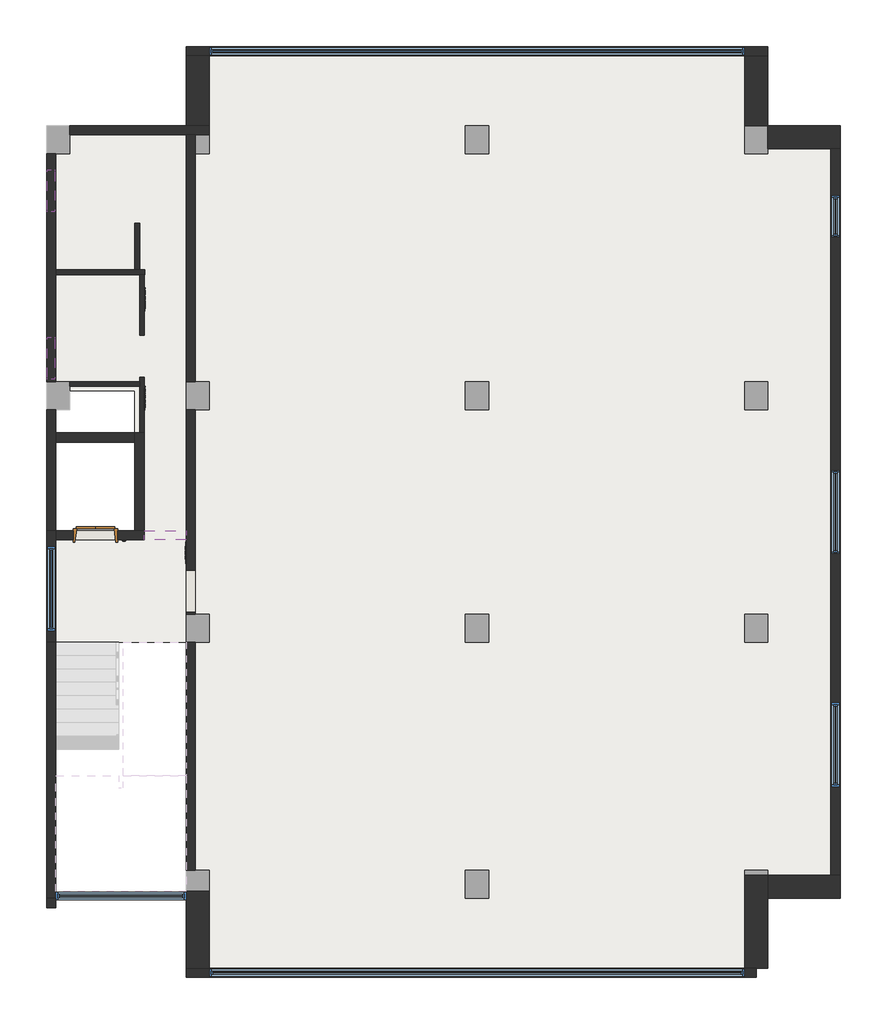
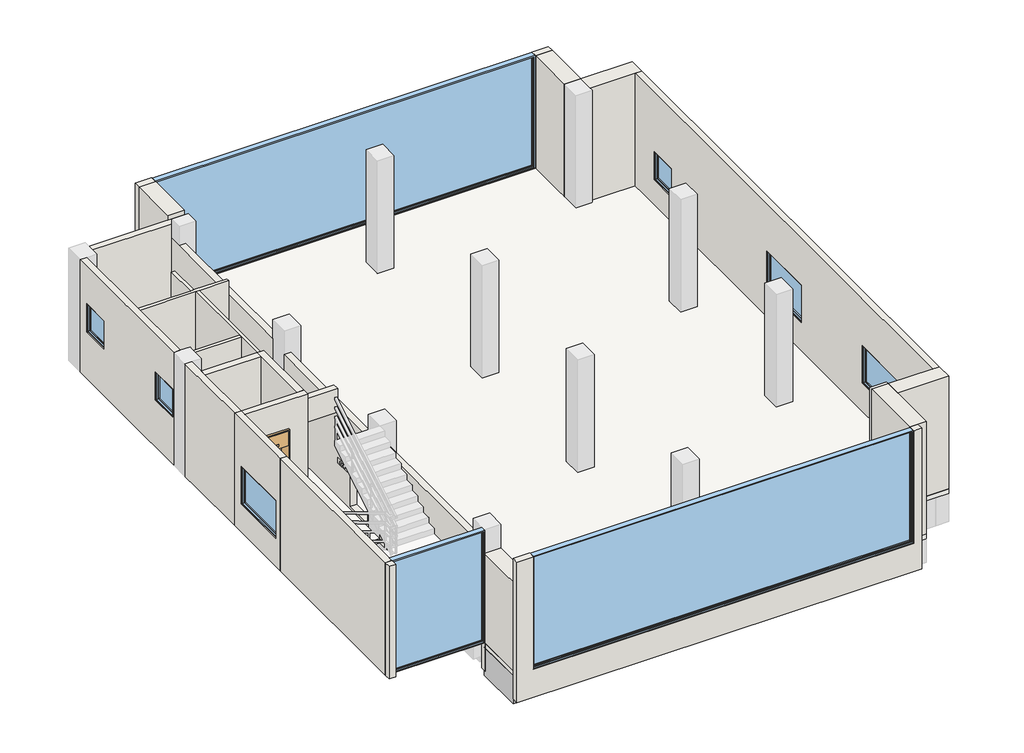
# One storey, part 1 of 3: 30 walls, 9 windows, 2 beams, 1 door, 1 slab.
"""IFC4 building model written with IfcOpenShell, lengths in millimetres."""

import ifcopenshell
import ifcopenshell.guid

model = None  # the IFC model being written
_history = None  # IfcOwnerHistory: only IFC2X3 demands one
_inside = {}  # id of a spatial element -> (the spatial element, [elements in it])
_under = {}  # id of a project, library or spatial element -> (it, [spatial elements below it])
_declared = {}  # id of a project -> (the project, [libraries it declares])
_typed = {}  # id of a type object -> (the type object, [elements of that type])
_made_of = {}  # id of a material, layer set ... -> (it, [elements and type objects made of it])


def new_model(schema):
    """Start an empty IFC model of exactly this schema.

    Asked for "IFC4X3", IfcOpenShell would pick the latest addendum, in which some entities
    have other attributes; the version numbers below select the first issue.
    IFC2X3 requires an IfcOwnerHistory on every rooted entity: one is made here for all.
    """
    global model, _history
    if schema == "IFC4X3":
        model = ifcopenshell.file(schema_version=(4, 3, 0, 0))
    else:
        model = ifcopenshell.file(schema=schema)
    _inside.clear()
    _under.clear()
    _declared.clear()
    _typed.clear()
    _made_of.clear()
    _history = None
    if model.schema == "IFC2X3":
        org = make("IfcOrganization", Name="unknown")
        user = make(
            "IfcPersonAndOrganization",
            ThePerson=make("IfcPerson", FamilyName="unknown"),
            TheOrganization=org,
        )
        app = make(
            "IfcApplication",
            ApplicationDeveloper=org,
            Version="unknown",
            ApplicationFullName="unknown",
            ApplicationIdentifier="unknown",
        )
        _history = make(
            "IfcOwnerHistory",
            OwningUser=user,
            OwningApplication=app,
            ChangeAction="ADDED",
            CreationDate=0,
        )
    return model


def make(cls, **values):
    """One entity of the class cls with the attributes given. An attribute that is None is left unset."""
    return model.create_entity(
        cls, **{name: value for name, value in values.items() if value is not None}
    )


def rooted(cls, **values):
    """An entity with a GlobalId (a new one), such as an element, a storey or a relation."""
    return make(cls, GlobalId=ifcopenshell.guid.new(), OwnerHistory=_history, **values)


def si_unit(unit_type, name, prefix=None):
    """IfcSIUnit, for example si_unit("LENGTHUNIT", "METRE", prefix="MILLI")."""
    return make("IfcSIUnit", UnitType=unit_type, Prefix=prefix, Name=name)


def assignment(units):
    """IfcUnitAssignment: the units of a project."""
    return None if units is None else make("IfcUnitAssignment", Units=units)


def point(xyz):
    """IfcCartesianPoint."""
    return None if xyz is None else make("IfcCartesianPoint", Coordinates=xyz)


def direction(xyz):
    """IfcDirection."""
    return None if xyz is None else make("IfcDirection", DirectionRatios=xyz)


def frame(location, z_axis=None, x_axis=None):
    """IfcAxis2Placement3D, a coordinate frame: its origin and axes. An axis left out is left unset."""
    return make(
        "IfcAxis2Placement3D",
        Location=point(location),
        Axis=direction(z_axis),
        RefDirection=direction(x_axis),
    )


def frame_2d(location, x_axis=None):
    """IfcAxis2Placement2D, a coordinate frame in the plane: its origin and x axis."""
    return make(
        "IfcAxis2Placement2D", Location=point(location), RefDirection=direction(x_axis)
    )


def origin():
    """The frame at (0, 0, 0) with its axes left unset."""
    return frame((0.0, 0.0, 0.0))


def origin_with_axes():
    """The frame at (0, 0, 0) with the z axis (0, 0, 1) and the x axis (1, 0, 0) written out."""
    return frame((0.0, 0.0, 0.0), z_axis=(0.0, 0.0, 1.0), x_axis=(1.0, 0.0, 0.0))


def place(relative_to, where):
    """IfcLocalPlacement: puts the frame where relative to a parent placement (None: the world)."""
    return make(
        "IfcLocalPlacement", PlacementRelTo=relative_to, RelativePlacement=where
    )


def context(
    kind, dimensions, precision=None, world=None, true_north=None, identifier=None
):
    """IfcGeometricRepresentationContext, for example the 3D "Model" context."""
    return make(
        "IfcGeometricRepresentationContext",
        ContextIdentifier=identifier,
        ContextType=kind,
        CoordinateSpaceDimension=dimensions,
        Precision=precision,
        WorldCoordinateSystem=world,
        TrueNorth=true_north,
    )


def project(units=None, contexts=None):
    """IfcProject with its units and contexts."""
    return rooted(
        "IfcProject",
        Name="project",
        RepresentationContexts=contexts,
        UnitsInContext=assignment(units),
    )


def spatial(cls, under=None, at=None, **own):
    """A site, building, storey or space (cls), placed at a placement, below another one or the project."""
    s = rooted(cls, ObjectPlacement=at, **own)
    if under is not None:
        _under.setdefault(under.id(), (under, []))[1].append(s)
    return s


def polyline(points):
    """IfcPolyline through the points."""
    return make("IfcPolyline", Points=[point(p) for p in points])


def circle_curve(where, radius):
    """IfcCircle in the frame where."""
    return make("IfcCircle", Position=where, Radius=radius)


def trimmed(basis, trim1, trim2, sense, master):
    """IfcTrimmedCurve: the piece of a basis curve between two trims."""
    return make(
        "IfcTrimmedCurve",
        BasisCurve=basis,
        Trim1=trim1,
        Trim2=trim2,
        SenseAgreement=sense,
        MasterRepresentation=master,
    )


def segment(curve, same_sense, transition):
    """IfcCompositeCurveSegment."""
    return make(
        "IfcCompositeCurveSegment",
        Transition=transition,
        SameSense=same_sense,
        ParentCurve=curve,
    )


def composite_curve(segments, self_intersect=None):
    """IfcCompositeCurve: segments joined end to end."""
    return make("IfcCompositeCurve", Segments=segments, SelfIntersect=self_intersect)


def outline(outer, holes=None, kind="AREA"):
    """IfcArbitraryClosedProfileDef: a profile drawn as a closed curve; with holes, ...WithVoids."""
    if holes is None:
        return make("IfcArbitraryClosedProfileDef", ProfileType=kind, OuterCurve=outer)
    return make(
        "IfcArbitraryProfileDefWithVoids",
        ProfileType=kind,
        OuterCurve=outer,
        InnerCurves=holes,
    )


def extrude(swept, where, along, depth):
    """IfcExtrudedAreaSolid: the profile swept, set in the frame where, extruded along a direction by depth."""
    return make(
        "IfcExtrudedAreaSolid",
        SweptArea=swept,
        Position=where,
        ExtrudedDirection=direction(along),
        Depth=depth,
    )


def faces_of(points, faces, orient=None, outer=None):
    """IfcFace entities. A face is a list of loops; a loop is a list of indices into points, from 0.

    orient and outer hold one flag for each loop. By default every Orientation is true, the
    first loop of a face is its IfcFaceOuterBound and the others are IfcFaceBound.
    """
    made = []
    for i, loops in enumerate(faces):
        bounds = []
        for j, loop in enumerate(loops):
            is_outer = j == 0 if outer is None else outer[i][j]
            bounds.append(
                make(
                    "IfcFaceOuterBound" if is_outer else "IfcFaceBound",
                    Bound=make("IfcPolyLoop", Polygon=[points[k] for k in loop]),
                    Orientation=True if orient is None else orient[i][j],
                )
            )
        made.append(make("IfcFace", Bounds=bounds))
    return made


def faceted_brep(points, faces, orient=None, outer=None, voids=None):
    """IfcFacetedBrep: a solid bounded by flat faces; with voids (closed shells), ...WithVoids."""
    shared = [point(p) for p in points]
    hull = make("IfcClosedShell", CfsFaces=faces_of(shared, faces, orient, outer))
    if voids is None:
        return make("IfcFacetedBrep", Outer=hull)
    return make(
        "IfcFacetedBrepWithVoids",
        Outer=hull,
        Voids=[
            make(cls, CfsFaces=faces_of(shared, fs, o, b)) for cls, fs, o, b in voids
        ],
    )


def shape(context_of_items, identifier, shape_type, items):
    """IfcShapeRepresentation: the items that make up one representation, for example the "Body"."""
    return make(
        "IfcShapeRepresentation",
        ContextOfItems=context_of_items,
        RepresentationIdentifier=identifier,
        RepresentationType=shape_type,
        Items=items,
    )


def source(mapping_origin, context_of_items, identifier, shape_type, items):
    """IfcRepresentationMap: a shape defined once, which mapped items show again and again."""
    return make(
        "IfcRepresentationMap",
        MappingOrigin=mapping_origin,
        MappedRepresentation=shape(context_of_items, identifier, shape_type, items),
    )


def transform(
    local_origin,
    x_axis=None,
    y_axis=None,
    z_axis=None,
    scale=None,
    scale2=None,
    scale3=None,
    uniform=True,
):
    """IfcCartesianTransformationOperator3D, or its non-uniform kind. x_axis, y_axis, z_axis: its Axis1, 2, 3."""
    if uniform:
        return make(
            "IfcCartesianTransformationOperator3D",
            Axis1=direction(x_axis),
            Axis2=direction(y_axis),
            LocalOrigin=point(local_origin),
            Scale=scale,
            Axis3=direction(z_axis),
        )
    return make(
        "IfcCartesianTransformationOperator3DnonUniform",
        Axis1=direction(x_axis),
        Axis2=direction(y_axis),
        LocalOrigin=point(local_origin),
        Scale=scale,
        Axis3=direction(z_axis),
        Scale2=scale2,
        Scale3=scale3,
    )


def mapped(mapping_source, mapping_target):
    """IfcMappedItem: shows the shape of a source again, moved by a transform."""
    return make(
        "IfcMappedItem", MappingSource=mapping_source, MappingTarget=mapping_target
    )


def made_of(thing, what):
    """Note that an element or type object is made of a material, layer set ...; save() writes the relation."""
    if what is not None:
        _made_of.setdefault(what.id(), (what, []))[1].append(thing)
    return thing


def element(
    cls,
    number,
    at=None,
    inside=None,
    cuts=None,
    type_object=None,
    material=None,
    context=None,
    identifier="Body",
    shape_type=None,
    held_by="IfcProductDefinitionShape",
    body=None,
    shapes=None,
    **own,
):
    """One element of the class cls, such as IfcWall. Its Tag is "e" and its number.

    at: its placement. inside: the storey or other place that contains it. cuts: it is an
    opening in that element (IfcRelVoidsElement). A single representation is given by context,
    identifier, shape_type and body (its items); several are given by shapes. held_by: the class
    of the entity that holds the representations. save() writes the other relations.
    """
    e = rooted(cls, Tag="e%d" % number, ObjectPlacement=at, **own)
    if body is not None:
        shapes = [shape(context, identifier, shape_type, body)]
    if shapes is not None:
        e.Representation = make(held_by, Representations=shapes)
    if inside is not None:
        _inside.setdefault(inside.id(), (inside, []))[1].append(e)
    if cuts is not None:
        rooted(
            "IfcRelVoidsElement", RelatingBuildingElement=cuts, RelatedOpeningElement=e
        )
    if type_object is not None:
        _typed.setdefault(type_object.id(), (type_object, []))[1].append(e)
    return made_of(e, material)


def aggregate(whole, parts):
    """IfcRelAggregates: a whole, such as a stair, and the parts it consists of."""
    return rooted("IfcRelAggregates", RelatingObject=whole, RelatedObjects=parts)


def save(model, path):
    """Write the relations noted so far, then the file.

    IfcRelAggregates (storeys below a building ...), IfcRelContainedInSpatialStructure (elements
    in a storey), IfcRelDefinesByType, IfcRelAssociatesMaterial and IfcRelDeclares: one each for
    every whole, place, type object, material and project.
    """
    for whole, parts in _under.values():
        aggregate(whole, parts)
    for where, things in _inside.values():
        rooted(
            "IfcRelContainedInSpatialStructure",
            RelatedElements=things,
            RelatingStructure=where,
        )
    for kind, things in _typed.values():
        rooted("IfcRelDefinesByType", RelatedObjects=things, RelatingType=kind)
    for what, things in _made_of.values():
        rooted("IfcRelAssociatesMaterial", RelatedObjects=things, RelatingMaterial=what)
    for by, libraries in _declared.values():
        rooted("IfcRelDeclares", RelatingContext=by, RelatedDefinitions=libraries)
    model.write(path)


def door_097e9757(model_context):
    return source(origin(), model_context, "Body", "SolidModel", [
        extrude(outline(polyline([(1060.9866664, -470.6066865), (1060.9866664, -508.6656154), (1028.0266672, -489.6361509), (1060.9866664, -470.6066865)])), frame((0.0, 120.0, 0.0), z_axis=(0.0, 1.0, 0.0), x_axis=(0.0, 0.0, 1.0)), (0.0, 0.0, 1.0), 6.0),
        extrude(outline(polyline([(1141.9733328, -489.6361509), (1109.0133336, -508.6656154), (1109.0133336, -470.6066865), (1141.9733328, -489.6361509)])), frame((0.0, 120.0, 0.0), z_axis=(0.0, 1.0, 0.0), x_axis=(0.0, 0.0, 1.0)), (0.0, 0.0, 1.0), 6.0),
        extrude(outline(composite_curve([segment(trimmed(circle_curve(frame_2d((1120.0, -489.6361509)), 25.0), [point((1120.0, -464.6361509))], [point((1120.0, -514.6361509))], False, "CARTESIAN"), True, "CONTINUOUS"), segment(trimmed(circle_curve(frame_2d((1120.0, -489.6361509)), 25.0), [point((1120.0, -514.6361509))], [point((1120.0, -464.6361509))], False, "CARTESIAN"), True, "CONTINUOUS")], self_intersect=False), holes=[polyline([(1109.0133336, -508.6656154), (1141.9733328, -489.6361509), (1109.0133336, -470.6066865), (1109.0133336, -508.6656154)])]), frame((0.0, 120.0, 0.0), z_axis=(0.0, 1.0, 0.0), x_axis=(0.0, 0.0, 1.0)), (0.0, 0.0, 1.0), 5.0),
        extrude(outline(composite_curve([segment(trimmed(circle_curve(frame_2d((1050.0, -489.6361509)), 25.0), [point((1050.0, -464.6361509))], [point((1050.0, -514.6361509))], False, "CARTESIAN"), True, "CONTINUOUS"), segment(trimmed(circle_curve(frame_2d((1050.0, -489.6361509)), 25.0), [point((1050.0, -514.6361509))], [point((1050.0, -464.6361509))], False, "CARTESIAN"), True, "CONTINUOUS")], self_intersect=False), holes=[polyline([(1060.9866664, -508.6656154), (1060.9866664, -470.6066865), (1028.0266672, -489.6361509), (1060.9866664, -508.6656154)])]), frame((0.0, 120.0, 0.0), z_axis=(0.0, 1.0, 0.0), x_axis=(0.0, 0.0, 1.0)), (0.0, 0.0, 1.0), 5.0),
        extrude(outline(polyline([(-450.0, 110.0), (-530.0, 110.0), (-530.0, 120.0), (-450.0, 120.0), (-450.0, 110.0)])), frame((0.0, 0.0, 1000.0), z_axis=(0.0, 0.0, 1.0), x_axis=(1.0, 0.0, 0.0)), (0.0, 0.0, 1.0), 170.0),
        faceted_brep([(-315.0, 155.0, 0.0), (-275.0, -134.999444, 0.0), (-350.0, -134.999444, 0.0), (-350.0, 155.0, 0.0), (-315.0, 155.0, 2565.0), (-275.0, -134.999444, 2525.0), (525.0, -134.999444, 2525.0), (525.0, -134.999444, 0.0), (600.0, -134.999444, 0.0), (600.0, -134.999444, 2600.0), (-350.0, -134.999444, 2600.0), (-350.0, 155.0, 2600.0), (600.0, 155.0, 2600.0), (600.0, 155.0, 0.0), (565.0, 155.0, 0.0), (565.0, 155.0, 2565.0)], [[[0, 1, 2, 3]], [[1, 0, 4, 5]], [[2, 1, 5, 6, 7, 8, 9, 10]], [[3, 2, 10, 11]], [[0, 3, 11, 12, 13, 14, 15, 4]], [[5, 4, 15, 6]], [[11, 10, 9, 12]], [[14, 13, 8, 7]], [[6, 15, 14, 7]], [[12, 9, 8, 13]]]),
        extrude(outline(polyline([(122.500166, -144.701786), (122.500166, -179.701786), (-289.999834, -179.701786), (-289.999834, -144.701786), (122.500166, -144.701786)])), origin_with_axes(), (0.0, 0.0, 1.0), 2135.0),
        extrude(outline(polyline([(127.500166, -144.701786), (539.999834, -144.701786), (539.999834, -179.701786), (127.500166, -179.701786), (127.500166, -144.701786)])), origin_with_axes(), (0.0, 0.0, 1.0), 2135.0),
        faceted_brep([(-315.0, 155.0, 2565.0), (565.0, 155.0, 2565.0), (565.0, 155.0, 2100.0), (-315.0, 155.0, 2100.0), (-275.0, -134.999444, 2525.0), (-275.0, -134.999444, 2100.0), (525.0, -134.999444, 2100.0), (525.0, -134.999444, 2525.0)], [[[0, 1, 2, 3]], [[4, 5, 6, 7]], [[4, 7, 1, 0]], [[7, 6, 2, 1]], [[6, 5, 3, 2]], [[5, 4, 0, 3]]]),
        extrude(outline(polyline([(-5.0, 160.0), (255.0, 160.0), (255.0, 155.0), (-5.0, 155.0), (-5.0, 160.0)])), frame((0.0, 0.0, 2171.6666667), z_axis=(0.0, 0.0, 1.0), x_axis=(1.0, 0.0, 0.0)), (0.0, 0.0, 1.0), 70.0),
    ])


def window_16c43cb3(model_context):
    return source(origin(), model_context, "Body", "SweptSolid", [
        extrude(outline(polyline([(380.0, 6.0), (380.0, -6.0), (-380.0, -6.0), (-380.0, 6.0), (380.0, 6.0)])), frame((0.0, 0.0, 870.0), z_axis=(0.0, 0.0, 1.0), x_axis=(1.0, 0.0, 0.0)), (0.0, 0.0, 1.0), 760.0),
        extrude(outline(polyline([(1660.0, -410.0), (840.0, -410.0), (840.0, 410.0), (1660.0, 410.0), (1660.0, -410.0)]), holes=[polyline([(1630.0, 380.0), (870.0, 380.0), (870.0, -380.0), (1630.0, -380.0), (1630.0, 380.0)])]), frame((0.0, -35.0, 0.0), z_axis=(0.0, 1.0, 0.0), x_axis=(0.0, 0.0, 1.0)), (0.0, 0.0, 1.0), 70.0),
        extrude(outline(polyline([(1700.0, 450.0), (1700.0, -450.0), (800.0, -450.0), (800.0, 450.0), (1700.0, 450.0)]), holes=[polyline([(1660.0, 410.0), (840.0, 410.0), (840.0, -410.0), (1660.0, -410.0), (1660.0, 410.0)])]), frame((0.0, -78.6430223, 0.0), z_axis=(0.0, 1.0, 0.0), x_axis=(0.0, 0.0, 1.0)), (0.0, 0.0, 1.0), 157.2860446),
    ])


def window_f2f41d25(model_context):
    return source(origin(), model_context, "Body", "SweptSolid", [
        extrude(outline(polyline([(380.0, -6.0), (-380.0, -6.0), (-380.0, 6.0), (380.0, 6.0), (380.0, -6.0)])), frame((0.0, 0.0, 870.0), z_axis=(0.0, 0.0, 1.0), x_axis=(1.0, 0.0, 0.0)), (0.0, 0.0, 1.0), 760.0),
        extrude(outline(polyline([(1660.0, 410.0), (1660.0, -410.0), (840.0, -410.0), (840.0, 410.0), (1660.0, 410.0)]), holes=[polyline([(1630.0, -380.0), (1630.0, 380.0), (870.0, 380.0), (870.0, -380.0), (1630.0, -380.0)])]), frame((0.0, -35.0, 0.0), z_axis=(0.0, 1.0, 0.0), x_axis=(0.0, 0.0, 1.0)), (0.0, 0.0, 1.0), 70.0),
        extrude(outline(polyline([(1700.0, 450.0), (1700.0, -450.0), (800.0, -450.0), (800.0, 450.0), (1700.0, 450.0)]), holes=[polyline([(1660.0, 410.0), (840.0, 410.0), (840.0, -410.0), (1660.0, -410.0), (1660.0, 410.0)])]), frame((0.0, -78.6430223, 0.0), z_axis=(0.0, 1.0, 0.0), x_axis=(0.0, 0.0, 1.0)), (0.0, 0.0, 1.0), 157.2860446),
    ])


def window_07c90ac9(model_context):
    return source(origin(), model_context, "Body", "SweptSolid", [
        extrude(outline(polyline([(830.0, 6.0), (830.0, -6.0), (-830.0, -6.0), (-830.0, 6.0), (830.0, 6.0)])), frame((0.0, 0.0, 870.0), z_axis=(0.0, 0.0, 1.0), x_axis=(1.0, 0.0, 0.0)), (0.0, 0.0, 1.0), 1060.0),
        extrude(outline(polyline([(1960.0, -860.0), (840.0, -860.0), (840.0, 860.0), (1960.0, 860.0), (1960.0, -860.0)]), holes=[polyline([(1930.0, 830.0), (870.0, 830.0), (870.0, -830.0), (1930.0, -830.0), (1930.0, 830.0)])]), frame((0.0, -35.0, 0.0), z_axis=(0.0, 1.0, 0.0), x_axis=(0.0, 0.0, 1.0)), (0.0, 0.0, 1.0), 70.0),
        extrude(outline(polyline([(2000.0, 900.0), (2000.0, -900.0), (800.0, -900.0), (800.0, 900.0), (2000.0, 900.0)]), holes=[polyline([(1960.0, 860.0), (840.0, 860.0), (840.0, -860.0), (1960.0, -860.0), (1960.0, 860.0)])]), frame((0.0, -78.6430223, 0.0), z_axis=(0.0, 1.0, 0.0), x_axis=(0.0, 0.0, 1.0)), (0.0, 0.0, 1.0), 157.2860446),
    ])


def window_8a8d6591(model_context):
    return source(origin(), model_context, "Body", "SweptSolid", [
        extrude(outline(polyline([(5680.0, 6.0), (5680.0, -6.0), (-5680.0, -6.0), (-5680.0, 6.0), (5680.0, 6.0)])), frame((0.0, 0.0, 870.0), z_axis=(0.0, 0.0, 1.0), x_axis=(1.0, 0.0, 0.0)), (0.0, 0.0, 1.0), 3460.0),
        extrude(outline(polyline([(4360.0, -5710.0), (840.0, -5710.0), (840.0, 5710.0), (4360.0, 5710.0), (4360.0, -5710.0)]), holes=[polyline([(4330.0, 5680.0), (870.0, 5680.0), (870.0, -5680.0), (4330.0, -5680.0), (4330.0, 5680.0)])]), frame((0.0, -35.0, 0.0), z_axis=(0.0, 1.0, 0.0), x_axis=(0.0, 0.0, 1.0)), (0.0, 0.0, 1.0), 70.0),
        extrude(outline(polyline([(4400.0, 5750.0), (4400.0, -5750.0), (800.0, -5750.0), (800.0, 5750.0), (4400.0, 5750.0)]), holes=[polyline([(4360.0, 5710.0), (840.0, 5710.0), (840.0, -5710.0), (4360.0, -5710.0), (4360.0, 5710.0)])]), frame((0.0, -78.6430223, 0.0), z_axis=(0.0, 1.0, 0.0), x_axis=(0.0, 0.0, 1.0)), (0.0, 0.0, 1.0), 157.2860446),
    ])


def window_3f7671e2(model_context):
    return source(origin(), model_context, "Body", "SweptSolid", [
        extrude(outline(polyline([(1330.0, 6.0), (1330.0, -6.0), (-1330.0, -6.0), (-1330.0, 6.0), (1330.0, 6.0)])), frame((0.0, 0.0, 870.0), z_axis=(0.0, 0.0, 1.0), x_axis=(1.0, 0.0, 0.0)), (0.0, 0.0, 1.0), 3460.0),
        extrude(outline(polyline([(4360.0, -1360.0), (840.0, -1360.0), (840.0, 1360.0), (4360.0, 1360.0), (4360.0, -1360.0)]), holes=[polyline([(4330.0, 1330.0), (870.0, 1330.0), (870.0, -1330.0), (4330.0, -1330.0), (4330.0, 1330.0)])]), frame((0.0, -35.0, 0.0), z_axis=(0.0, 1.0, 0.0), x_axis=(0.0, 0.0, 1.0)), (0.0, 0.0, 1.0), 70.0),
        extrude(outline(polyline([(4400.0, 1400.0), (4400.0, -1400.0), (800.0, -1400.0), (800.0, 1400.0), (4400.0, 1400.0)]), holes=[polyline([(4360.0, 1360.0), (840.0, 1360.0), (840.0, -1360.0), (4360.0, -1360.0), (4360.0, 1360.0)])]), frame((0.0, -78.6430223, 0.0), z_axis=(0.0, 1.0, 0.0), x_axis=(0.0, 0.0, 1.0)), (0.0, 0.0, 1.0), 157.2860446),
    ])


model = new_model("IFC4")

# Units and contexts
model_context = context("Model", 3, world=origin())
ifc_project = project(units=[si_unit("LENGTHUNIT", "METRE", prefix="MILLI")], contexts=[model_context])

# Site, building, storey
site = spatial("IfcSite", under=ifc_project)
building = spatial("IfcBuilding", under=site)
storey = spatial("IfcBuildingStorey", under=building, Name="2층", Elevation=3900.0)

# Beams
placement = place(None, origin())
element("IfcBeam", 1, ObjectType="BM100-구조 보 : BM100-구조 보 400x900", at=placement, inside=storey, context=model_context, shape_type="Brep", body=[
    faceted_brep([(2750.0, -1800.0, 3750.0), (3150.0, -1800.0, 3750.0), (3150.0, -1400.0, 3750.0), (3150.0, -300.0, 3750.0), (2750.0, -300.0, 3750.0), (3150.0, -1800.0, 2850.0), (3150.0, -1400.0, 2850.0), (3150.0, -300.0, 2850.0), (2750.0, -1800.0, 2850.0), (2750.0, -300.0, 2850.0)], [[[0, 1, 2, 3, 4]], [[1, 5, 6, 7, 3, 2]], [[5, 8, 9, 7, 6]], [[8, 0, 4, 9]], [[1, 0, 8, 5]], [[4, 3, 7, 9]]]),
])
element("IfcBeam", 2, ObjectType="BM100-구조 보 : BM100-구조 보 400x900", at=placement, inside=storey, context=model_context, shape_type="Brep", body=[
    faceted_brep([(9250.0, -1800.0, 3750.0), (8850.0, -1400.0, 3750.0), (3150.0, -1400.0, 3750.0), (3150.0, -1800.0, 3750.0), (9050.0, -1800.0, 3750.0), (9250.0, -1800.0, 2850.0), (3150.0, -1800.0, 2850.0), (8850.0, -1400.0, 2850.0), (3150.0, -1400.0, 2850.0)], [[[0, 1, 2, 3, 4]], [[5, 0, 4, 3, 6]], [[7, 5, 6, 8]], [[1, 7, 8, 2]], [[3, 2, 8, 6]], [[1, 0, 5, 7]]]),
])

# Door
door_shape = door_097e9757(model_context)
element("IfcDoor", 3, ObjectType="XX111-승객용 엘리베이터 (다용도, 800KG) 상판 출입구800 : 엘리베이터 800", at=placement, inside=storey, context=model_context, shape_type="MappedRepresentation", body=[
    mapped(door_shape, transform((925.0, 7500.0, 4000.0), x_axis=(-1.0, 0.0, 0.0), y_axis=(0.0, -1.0, 0.0), z_axis=(0.0, 0.0, 1.0))),
])

# Slab
element("IfcSlab", 4, ObjectType="SL100-구조 바닥 150", at=placement, inside=storey, context=model_context, shape_type="Brep", body=[
    faceted_brep([(-50.0, 5200.0, 3750.0), (-50.0, 7400.0, 3750.0), (1650.0, 7400.0, 3750.0), (1650.0, 7600.0, 3750.0), (1650.0, 10600.0, 3750.0), (250.0, 10600.0, 3750.0), (250.0, 10800.0, 3750.0), (-50.0, 10800.0, 3750.0), (-50.0, 15700.0, 3750.0), (250.0, 15700.0, 3750.0), (250.0, 16100.0, 3750.0), (2750.0, 16100.0, 3750.0), (2750.0, 15700.0, 3750.0), (3150.0, 15700.0, 3750.0), (3250.0, 15700.0, 3750.0), (3250.0, 15900.0, 3750.0), (3250.0, 16300.0, 3750.0), (3150.0, 16300.0, 3750.0), (2750.0, 16300.0, 3750.0), (2750.0, 17800.0, 3750.0), (3150.0, 17800.0, 3750.0), (9250.0, 17800.0, 3750.0), (15250.0, 17800.0, 3750.0), (15250.0, 17400.0, 3750.0), (15250.0, 16300.0, 3750.0), (14850.0, 16300.0, 3750.0), (14750.0, 16300.0, 3750.0), (14750.0, 15900.0, 3750.0), (14750.0, 15700.0, 3750.0), (14850.0, 15700.0, 3750.0), (15250.0, 15700.0, 3750.0), (15250.0, 15900.0, 3750.0), (16800.0, 16300.0, 3750.0), (16800.0, 15900.0, 3750.0), (16800.0, 10700.0, 3750.0), (16800.0, 5700.0, 3750.0), (16800.0, -300.0, 3750.0), (16400.0, -300.0, 3750.0), (15250.0, -300.0, 3750.0), (15250.0, 100.0, 3750.0), (15250.0, 294.5, 3750.0), (14750.0, 294.5, 3750.0), (14750.0, 100.0, 3750.0), (14750.0, -300.0, 3750.0), (14750.0, -305.5, 3750.0), (14849.5, -305.5, 3750.0), (15249.5, -305.5, 3750.0), (15250.0, -305.5, 3750.0), (15250.0, -1800.0, 3750.0), (15249.5, -1800.0, 3750.0), (14849.5, -1800.0, 3750.0), (14802.9411221, -1800.0, 3750.0), (14802.9411221, -1400.0, 3750.0), (9250.0, -1400.0, 3750.0), (9050.0, -1400.0, 3750.0), (9050.0, -1800.0, 3750.0), (3150.0, -1800.0, 3750.0), (2750.0, -1800.0, 3750.0), (2750.0, -300.0, 3750.0), (3150.0, -300.0, 3750.0), (3250.0, -300.0, 3750.0), (3250.0, 100.0, 3750.0), (3250.0, 300.0, 3750.0), (3150.0, 300.0, 3750.0), (2750.0, 300.0, 3750.0), (2750.0, 5200.0, 3750.0), (3150.0, 5200.0, 3750.0), (3250.0, 5200.0, 3750.0), (3250.0, 5300.0, 3750.0), (3250.0, 5700.0, 3750.0), (3250.0, 5800.0, 3750.0), (3150.0, 5800.0, 3750.0), (2750.0, 5800.0, 3750.0), (2750.0, 10800.0, 3750.0), (2750.0, 10200.0, 3750.0), (3150.0, 10200.0, 3750.0), (3250.0, 10200.0, 3750.0), (3250.0, 10300.0, 3750.0), (3250.0, 10700.0, 3750.0), (3250.0, 10800.0, 3750.0), (3150.0, 10800.0, 3750.0), (14750.0, 10800.0, 3750.0), (14750.0, 10700.0, 3750.0), (14750.0, 10300.0, 3750.0), (14750.0, 10200.0, 3750.0), (14850.0, 10200.0, 3750.0), (15250.0, 10200.0, 3750.0), (15250.0, 10300.0, 3750.0), (15250.0, 10700.0, 3750.0), (15250.0, 10800.0, 3750.0), (14850.0, 10800.0, 3750.0), (14750.0, 5800.0, 3750.0), (14750.0, 5700.0, 3750.0), (14750.0, 5300.0, 3750.0), (14750.0, 5200.0, 3750.0), (14850.0, 5200.0, 3750.0), (15250.0, 5200.0, 3750.0), (15250.0, 5300.0, 3750.0), (15250.0, 5700.0, 3750.0), (15250.0, 5800.0, 3750.0), (14850.0, 5800.0, 3750.0), (8750.0, 300.0, 3750.0), (8750.0, 100.0, 3750.0), (8750.0, -300.0, 3750.0), (8850.0, -300.0, 3750.0), (9250.0, -300.0, 3750.0), (9250.0, 100.0, 3750.0), (9250.0, 300.0, 3750.0), (8850.0, 300.0, 3750.0), (8750.0, 10800.0, 3750.0), (8750.0, 10700.0, 3750.0), (8750.0, 10300.0, 3750.0), (8750.0, 10200.0, 3750.0), (8850.0, 10200.0, 3750.0), (9250.0, 10200.0, 3750.0), (9250.0, 10300.0, 3750.0), (9250.0, 10700.0, 3750.0), (9250.0, 10800.0, 3750.0), (8850.0, 10800.0, 3750.0), (8750.0, 5800.0, 3750.0), (8750.0, 5700.0, 3750.0), (8750.0, 5300.0, 3750.0), (8750.0, 5200.0, 3750.0), (8850.0, 5200.0, 3750.0), (9250.0, 5200.0, 3750.0), (9250.0, 5300.0, 3750.0), (9250.0, 5700.0, 3750.0), (9250.0, 5800.0, 3750.0), (8850.0, 5800.0, 3750.0), (-50.0, 7400.0, 3900.0), (-50.0, 5200.0, 3900.0), (2750.0, 5200.0, 3900.0), (2750.0, 5800.0, 3900.0), (3250.0, 5800.0, 3900.0), (3250.0, 5200.0, 3900.0), (2750.0, 300.0, 3900.0), (3250.0, 300.0, 3900.0), (3250.0, -300.0, 3900.0), (2750.0, -300.0, 3900.0), (2750.0, -1800.0, 3900.0), (15250.0, -1800.0, 3900.0), (15250.0, -305.5, 3900.0), (14750.0, -305.5, 3900.0), (14750.0, 294.5, 3900.0), (15250.0, 294.5, 3900.0), (15250.0, -300.0, 3900.0), (16800.0, -300.0, 3900.0), (16800.0, 16300.0, 3900.0), (15250.0, 16300.0, 3900.0), (15250.0, 15700.0, 3900.0), (14750.0, 15700.0, 3900.0), (14750.0, 16300.0, 3900.0), (15250.0, 17800.0, 3900.0), (2750.0, 17800.0, 3900.0), (2750.0, 16300.0, 3900.0), (2950.0, 16300.0, 3900.0), (3250.0, 16300.0, 3900.0), (3250.0, 15700.0, 3900.0), (2750.0, 15700.0, 3900.0), (2750.0, 16100.0, 3900.0), (250.0, 16100.0, 3900.0), (250.0, 15700.0, 3900.0), (-50.0, 15700.0, 3900.0), (-50.0, 10800.0, 3900.0), (250.0, 10800.0, 3900.0), (250.0, 10600.0, 3900.0), (1650.0, 10600.0, 3900.0), (1650.0, 7600.0, 3900.0), (1650.0, 7400.0, 3900.0), (2750.0, 10200.0, 3900.0), (2750.0, 10800.0, 3900.0), (3250.0, 10800.0, 3900.0), (3250.0, 10200.0, 3900.0), (8750.0, 5200.0, 3900.0), (8750.0, 5800.0, 3900.0), (9250.0, 5800.0, 3900.0), (9250.0, 5200.0, 3900.0), (14750.0, 10200.0, 3900.0), (14750.0, 10800.0, 3900.0), (15250.0, 10800.0, 3900.0), (15250.0, 10200.0, 3900.0), (8750.0, 10200.0, 3900.0), (8750.0, 10800.0, 3900.0), (9250.0, 10800.0, 3900.0), (9250.0, 10200.0, 3900.0), (14750.0, 5200.0, 3900.0), (14750.0, 5800.0, 3900.0), (15250.0, 5800.0, 3900.0), (15250.0, 5200.0, 3900.0), (8750.0, -300.0, 3900.0), (8750.0, 300.0, 3900.0), (9250.0, 300.0, 3900.0), (9250.0, -300.0, 3900.0), (9050.0, -1800.0, 3752.459218), (14799.4035473, -1800.0, 3893.8495831), (14799.4035473, -1400.0, 3893.8495831), (9050.0, -1400.0, 3752.459218)], [[[0, 1, 2, 3, 4, 5, 6, 7, 8, 9, 10, 11, 12, 13, 14, 15, 16, 17, 18, 19, 20, 21, 22, 23, 24, 25, 26, 27, 28, 29, 30, 31, 24, 32, 33, 34, 35, 36, 37, 38, 39, 40, 41, 42, 43, 44, 45, 46, 47, 48, 49, 50, 51, 52, 53, 54, 55, 56, 57, 58, 59, 60, 61, 62, 63, 64, 65, 66, 67, 68, 69, 70, 71, 72, 65], [73, 74, 75, 76, 77, 78, 79, 80], [81, 82, 83, 84, 85, 86, 87, 88, 89, 90], [91, 92, 93, 94, 95, 96, 97, 98, 99, 100], [101, 102, 103, 104, 105, 106, 107, 108], [109, 110, 111, 112, 113, 114, 115, 116, 117, 118], [119, 120, 121, 122, 123, 124, 125, 126, 127, 128]], [[129, 130, 131, 132, 133, 134, 131, 135, 136, 137, 138, 139, 140, 141, 142, 143, 144, 145, 146, 147, 148, 149, 150, 151, 148, 152, 153, 154, 155, 156, 157, 158, 159, 160, 161, 162, 163, 164, 165, 166, 167, 168], [169, 170, 171, 172], [173, 174, 175, 176], [177, 178, 179, 180], [181, 182, 183, 184], [185, 186, 187, 188], [189, 190, 191, 192]], [[1, 0, 130, 129]], [[11, 10, 160, 159]], [[58, 57, 139, 138]], [[0, 65, 131, 130]], [[153, 19, 18, 154]], [[22, 21, 20, 19, 153, 152]], [[36, 35, 34, 33, 32, 147, 146]], [[140, 139, 57, 56, 55, 193, 194, 51, 50, 49, 48]], [[38, 37, 36, 146, 145]], [[140, 48, 47, 141]], [[24, 23, 22, 152, 148]], [[32, 24, 148, 147]], [[2, 1, 129, 168]], [[5, 4, 166, 165]], [[8, 7, 163, 162]], [[64, 63, 62, 136, 135]], [[65, 64, 135, 131]], [[142, 44, 43, 42, 41, 143]], [[40, 144, 143, 41]], [[144, 40, 39, 38, 145]], [[44, 142, 141, 47, 46, 45]], [[101, 190, 189, 103, 102]], [[190, 101, 108, 107, 191]], [[191, 107, 106, 105, 192]], [[192, 105, 104, 103, 189]], [[72, 132, 131, 65]], [[70, 133, 132, 72, 71]], [[133, 70, 69, 68, 67, 134]], [[134, 67, 66, 65, 131]], [[73, 170, 169, 74]], [[170, 73, 80, 79, 171]], [[171, 79, 78, 77, 76, 172]], [[172, 76, 75, 74, 169]], [[6, 164, 163, 7]], [[161, 9, 8, 162]], [[158, 12, 11, 159]], [[16, 156, 155, 154, 18, 17]], [[156, 16, 15, 14, 157]], [[12, 158, 157, 14, 13]], [[26, 151, 150, 28, 27]], [[151, 26, 25, 24, 148]], [[30, 149, 148, 24, 31]], [[149, 30, 29, 28, 150]], [[81, 178, 177, 84, 83, 82]], [[178, 81, 90, 89, 179]], [[179, 89, 88, 87, 86, 180]], [[180, 86, 85, 84, 177]], [[109, 182, 181, 112, 111, 110]], [[182, 109, 118, 117, 183]], [[183, 117, 116, 115, 114, 184]], [[184, 114, 113, 112, 181]], [[91, 186, 185, 94, 93, 92]], [[186, 91, 100, 99, 187]], [[187, 99, 98, 97, 96, 188]], [[188, 96, 95, 94, 185]], [[119, 174, 173, 122, 121, 120]], [[174, 119, 128, 127, 175]], [[175, 127, 126, 125, 124, 176]], [[176, 124, 123, 122, 173]], [[60, 59, 58, 138, 137]], [[62, 61, 60, 137, 136]], [[4, 3, 2, 168, 167, 166]], [[164, 6, 5, 165]], [[9, 161, 160, 10]], [[195, 194, 193, 196]], [[195, 196, 54, 53, 52]], [[194, 195, 52, 51]], [[196, 193, 55, 54]]]),
])

# Walls
element("IfcWall", 5, ObjectType="WA100-구조 벽 200", at=placement, inside=storey, context=model_context, shape_type="Brep", body=[
    faceted_brep([(-50.0, -300.0, 3900.0), (-50.0, -100.0, 3900.0), (-50.0, 5200.0, 3900.0), (-50.0, 5200.0, 7500.0), (-50.0, -300.0, 7500.0), (-250.0, -300.0, 3900.0), (-250.0, -300.0, 7500.0), (-250.0, 5200.0, 7500.0), (-250.0, 5200.0, 3900.0)], [[[0, 1, 2, 3, 4]], [[5, 6, 7, 8]], [[2, 1, 0, 5, 8]], [[3, 2, 8, 7]], [[4, 3, 7, 6]], [[0, 4, 6, 5]]]),
])
element("IfcWall", 6, ObjectType="WA100-구조 벽 200", at=placement, inside=storey, context=model_context, shape_type="Brep", body=[
    faceted_brep([(-50.0, 7400.0, 3900.0), (1650.0, 7400.0, 3900.0), (1850.0, 7400.0, 3900.0), (1850.0, 7400.0, 6600.0), (1850.0, 7400.0, 7350.0), (1850.0, 7400.0, 7500.0), (-50.0, 7400.0, 7500.0), (-50.0, 7400.0, 7350.0), (1275.0, 7400.0, 6600.0), (1275.0, 7400.0, 4000.0), (325.0, 7400.0, 4000.0), (325.0, 7400.0, 6600.0), (1850.0, 7600.0, 3900.0), (1650.0, 7600.0, 3900.0), (-50.0, 7600.0, 3900.0), (-50.0, 7600.0, 7500.0), (1650.0, 7600.0, 7500.0), (1850.0, 7600.0, 7500.0), (1850.0, 7600.0, 7350.0), (1850.0, 7600.0, 6600.0), (1275.0, 7600.0, 4000.0), (1275.0, 7600.0, 6600.0), (325.0, 7600.0, 6600.0), (325.0, 7600.0, 4000.0)], [[[0, 1, 2, 3, 4, 5, 6, 7], [8, 9, 10, 11]], [[12, 13, 14, 15, 16, 17, 18, 19], [20, 21, 22, 23]], [[2, 1, 0, 14, 13, 12]], [[6, 5, 17, 16, 15]], [[6, 15, 14, 0, 7]], [[8, 21, 20, 9]], [[9, 20, 23, 10]], [[22, 11, 10, 23]], [[21, 8, 11, 22]], [[2, 12, 19, 18, 17, 5, 4, 3]]]),
])
element("IfcWall", 7, ObjectType="WA700-수장 벽 100", at=placement, inside=storey, context=model_context, shape_type="SweptSolid", body=[
    extrude(outline(polyline([(1750.0, 10700.0), (250.0, 10700.0), (250.0, 10800.0), (1750.0, 10800.0), (1750.0, 10700.0)])), frame((0.0, 0.0, 3900.0), z_axis=(0.0, 0.0, 1.0), x_axis=(1.0, 0.0, 0.0)), (0.0, 0.0, 1.0), 3450.0),
])
element("IfcWall", 8, ObjectType="WA100-구조 벽 200", at=placement, inside=storey, context=model_context, shape_type="Brep", body=[
    faceted_brep([(1850.0, 7600.0, 7500.0), (1850.0, 7600.0, 3900.0), (1850.0, 9700.0, 3900.0), (1850.0, 9700.0, 7500.0), (1650.0, 7600.0, 3900.0), (1650.0, 7600.0, 7500.0), (1650.0, 9500.0, 7500.0), (1650.0, 9700.0, 7500.0), (1650.0, 9700.0, 3900.0), (1650.0, 9500.0, 3900.0)], [[[0, 1, 2, 3]], [[4, 5, 6, 7, 8, 9]], [[2, 1, 4, 9, 8]], [[0, 3, 7, 6, 5]], [[2, 8, 7, 3]], [[0, 5, 4, 1]]]),
])
element("IfcWall", 9, ObjectType="WA100-구조 벽 200", at=placement, inside=storey, context=model_context, shape_type="Brep", body=[
    faceted_brep([(-50.0, 9500.0, 3900.0), (1650.0, 9500.0, 3900.0), (1650.0, 9500.0, 7500.0), (-50.0, 9500.0, 7500.0), (-50.0, 9700.0, 3900.0), (-50.0, 9700.0, 7500.0), (1650.0, 9700.0, 7500.0), (1650.0, 9700.0, 3900.0), (-50.0, 9600.0, 3900.0), (1650.0, 9600.0, 3900.0)], [[[0, 1, 2, 3]], [[4, 5, 6, 7]], [[1, 0, 8, 4, 7, 9]], [[3, 2, 6, 5]], [[0, 3, 5, 4, 8]], [[1, 9, 7, 6, 2]]]),
])
element("IfcWall", 10, ObjectType="WA700-수장 벽 100", at=placement, inside=storey, context=model_context, shape_type="Brep", body=[
    faceted_brep([(1750.0, 9700.0, 3900.0), (1750.0, 9700.0, 7350.0), (1750.0, 10700.0, 7350.0), (1750.0, 10800.0, 7350.0), (1750.0, 13100.0, 7350.0), (1750.0, 13100.0, 3900.0), (1750.0, 11795.0, 3900.0), (1750.0, 11795.0, 5700.0), (1750.0, 10895.0, 5700.0), (1750.0, 10895.0, 3900.0), (1750.0, 10800.0, 3900.0), (1750.0, 10700.0, 3900.0), (1850.0, 13100.0, 7350.0), (1850.0, 9700.0, 7350.0), (1850.0, 9700.0, 3900.0), (1850.0, 10895.0, 3900.0), (1850.0, 10895.0, 5700.0), (1850.0, 11795.0, 5700.0), (1850.0, 11795.0, 3900.0), (1850.0, 13100.0, 3900.0)], [[[0, 1, 2, 3, 4, 5, 6, 7, 8, 9, 10, 11]], [[12, 13, 14, 15, 16, 17, 18, 19]], [[14, 0, 11, 10, 9, 15]], [[5, 19, 18, 6]], [[1, 0, 14, 13]], [[5, 4, 12, 19]], [[13, 12, 4, 3, 2, 1]], [[8, 16, 15, 9]], [[16, 8, 7, 17]], [[17, 7, 6, 18]]]),
])
element("IfcWall", 11, ObjectType="WA700-수장 벽 100", at=placement, inside=storey, context=model_context, shape_type="Brep", body=[
    faceted_brep([(-50.0, 13100.0, 7350.0), (-50.0, 13100.0, 3900.0), (1750.0, 13100.0, 3900.0), (1850.0, 13100.0, 3900.0), (1855.0, 13100.0, 3900.0), (1855.0, 13100.0, 5700.0), (2750.0, 13100.0, 5700.0), (2750.0, 13100.0, 7350.0), (1850.0, 13100.0, 7350.0), (1750.0, 13100.0, 7350.0), (-50.0, 13200.0, 3900.0), (-50.0, 13200.0, 7350.0), (1650.0, 13200.0, 7350.0), (1750.0, 13200.0, 7350.0), (2750.0, 13200.0, 7350.0), (2750.0, 13200.0, 5700.0), (1855.0, 13200.0, 5700.0), (1855.0, 13200.0, 3900.0), (1750.0, 13200.0, 3900.0), (1650.0, 13200.0, 3900.0)], [[[0, 1, 2, 3, 4, 5, 6, 7, 8, 9]], [[10, 11, 12, 13, 14, 15, 16, 17, 18, 19]], [[1, 10, 19, 18, 17, 4, 3, 2]], [[1, 0, 11, 10]], [[14, 7, 6, 15]], [[0, 9, 8, 7, 14, 13, 12, 11]], [[5, 16, 15, 6]], [[16, 5, 4, 17]]]),
])
element("IfcWall", 12, ObjectType="WA100-구조 벽 200", at=placement, inside=storey, context=model_context, shape_type="Brep", body=[
    faceted_brep([(250.0, 16100.0, 3900.0), (2750.0, 16100.0, 3900.0), (2950.0, 16100.0, 3900.0), (3250.0, 16100.0, 3900.0), (3250.0, 16100.0, 7350.0), (250.0, 16100.0, 7350.0), (3250.0, 16300.0, 3900.0), (2950.0, 16300.0, 3900.0), (2750.0, 16300.0, 3900.0), (250.0, 16300.0, 3900.0), (250.0, 16300.0, 7350.0), (2750.0, 16300.0, 7350.0), (3250.0, 16300.0, 7350.0), (3250.0, 16300.0, 6750.0)], [[[0, 1, 2, 3, 4, 5]], [[6, 7, 8, 9, 10, 11, 12, 13]], [[3, 2, 1, 0, 9, 8, 7, 6]], [[9, 0, 5, 10]], [[5, 4, 12, 11, 10]], [[3, 6, 13, 12, 4]]]),
])
element("IfcWall", 13, ObjectType="WA700-수장 벽 100", at=placement, inside=storey, context=model_context, shape_type="SweptSolid", body=[
    extrude(outline(polyline([(1750.0, 14200.0), (1750.0, 13200.0), (1650.0, 13200.0), (1650.0, 14200.0), (1750.0, 14200.0)])), frame((0.0, 0.0, 3900.0), z_axis=(0.0, 0.0, 1.0), x_axis=(1.0, 0.0, 0.0)), (0.0, 0.0, 1.0), 3450.0),
])
element("IfcWall", 14, ObjectType="WA100-구조 벽 200", at=placement, inside=storey, context=model_context, shape_type="Brep", body=[
    faceted_brep([(2950.0, 300.0, 3900.0), (2950.0, 5200.0, 3900.0), (2950.0, 5200.0, 6750.0), (2950.0, 5200.0, 6900.0), (2950.0, 300.0, 6900.0), (2950.0, 300.0, 6750.0), (2750.0, 300.0, 3900.0), (2750.0, 300.0, 6900.0), (2750.0, 5200.0, 6900.0), (2750.0, 5200.0, 3900.0)], [[[0, 1, 2, 3, 4, 5]], [[6, 7, 8, 9]], [[1, 0, 6, 9]], [[3, 2, 1, 9, 8]], [[4, 3, 8, 7]], [[0, 5, 4, 7, 6]]]),
])
element("IfcWall", 15, ObjectType="WA100-구조 벽 200", at=placement, inside=storey, context=model_context, shape_type="SweptSolid", body=[
    extrude(outline(polyline([(10200.0, 3900.0), (5800.0, 3900.0), (5800.0, 6750.0), (10200.0, 6750.0), (10200.0, 3900.0)]), holes=[polyline([(5845.0, 5781.0), (5845.0, 3981.0), (6745.0, 3981.0), (6745.0, 5781.0), (5845.0, 5781.0)])]), frame((2750.0, 0.0, 0.0), z_axis=(1.0, 0.0, 0.0), x_axis=(0.0, 1.0, 0.0)), (0.0, 0.0, 1.0), 200.0),
])
element("IfcWall", 16, ObjectType="WA100-구조 벽 200", at=placement, inside=storey, context=model_context, shape_type="Brep", body=[
    faceted_brep([(2750.0, 10800.0, 3900.0), (2750.0, 10800.0, 6900.0), (2750.0, 15700.0, 6900.0), (2750.0, 16100.0, 6900.0), (2750.0, 16100.0, 3900.0), (2750.0, 15700.0, 3900.0), (2750.0, 13200.0, 3900.0), (2750.0, 13200.0, 5700.0), (2750.0, 13100.0, 5700.0), (2750.0, 13100.0, 3900.0), (2950.0, 10800.0, 3900.0), (2950.0, 15700.0, 3900.0), (2950.0, 16100.0, 3900.0), (2950.0, 16100.0, 6900.0), (2950.0, 15700.0, 6900.0), (2950.0, 10800.0, 6900.0), (2950.0, 10800.0, 6750.0), (2755.0, 13100.0, 3900.0), (2755.0, 13200.0, 3900.0), (2755.0, 13100.0, 5700.0), (2755.0, 13200.0, 5700.0)], [[[0, 1, 2, 3, 4, 5, 6, 7, 8, 9]], [[10, 11, 12, 13, 14, 15, 16]], [[12, 11, 10, 0, 9, 17, 18, 6, 5, 4]], [[1, 0, 10, 16, 15]], [[3, 2, 1, 15, 14, 13]], [[19, 17, 9, 8]], [[18, 20, 7, 6]], [[17, 19, 20, 18]], [[20, 19, 8, 7]], [[12, 4, 3, 13]]]),
])
element("IfcWall", 17, ObjectType="WA100-구조 벽 500", at=placement, inside=storey, context=model_context, shape_type="Brep", body=[
    faceted_brep([(2750.0, -150.0, 3900.0), (2750.0, -300.0, 3900.0), (2750.0, -1800.0, 3900.0), (2750.0, -1800.0, 6750.0), (2750.0, -1400.0, 6750.0), (2750.0, -300.0, 6750.0), (2750.0, -150.0, 6750.0), (3250.0, -150.0, 3900.0), (3250.0, -150.0, 6750.0), (3250.0, -300.0, 6750.0), (3250.0, -1800.0, 6750.0), (3250.0, -1800.0, 3900.0), (3250.0, -300.0, 3900.0)], [[[0, 1, 2, 3, 4, 5, 6]], [[7, 8, 9, 10, 11, 12]], [[2, 1, 0, 7, 12, 11]], [[3, 2, 11, 10]], [[6, 5, 4, 3, 10, 9, 8]], [[0, 6, 8, 7]]]),
])
element("IfcWall", 18, ObjectType="WA100-구조 벽 500", at=placement, inside=storey, context=model_context, shape_type="Brep", body=[
    faceted_brep([(3250.0, 16300.0, 7500.0), (3250.0, 16300.0, 7350.0), (3250.0, 16300.0, 3900.0), (3250.0, 17800.0, 3900.0), (3250.0, 17800.0, 7500.0), (2750.0, 16300.0, 3900.0), (2750.0, 16300.0, 7500.0), (2750.0, 17800.0, 7500.0), (2750.0, 17800.0, 3900.0)], [[[0, 1, 2, 3, 4]], [[5, 6, 7, 8]], [[3, 2, 5, 8]], [[4, 3, 8, 7]], [[0, 4, 7, 6]], [[0, 6, 5, 2, 1]]]),
])
element("IfcWall", 19, ObjectType="WA100-구조 벽 500", at=placement, inside=storey, context=model_context, shape_type="Brep", body=[
    faceted_brep([(14750.0, 200.0, 3900.0), (14750.0, -305.5, 3900.0), (14750.0, -1800.0, 3900.0), (14750.0, -1800.0, 7500.0), (14750.0, -300.0, 7500.0), (14750.0, 200.0, 7500.0), (15250.0, 200.0, 3900.0), (15250.0, 200.0, 7500.0), (15250.0, -300.0, 7500.0), (15250.0, -1800.0, 7500.0), (15250.0, -1800.0, 3900.0), (15250.0, -305.5, 3900.0), (15250.0, -300.0, 3900.0)], [[[0, 1, 2, 3, 4, 5]], [[6, 7, 8, 9, 10, 11, 12]], [[2, 1, 0, 6, 12, 11, 10]], [[3, 2, 10, 9]], [[5, 4, 3, 9, 8, 7]], [[0, 5, 7, 6]]]),
])
element("IfcWall", 20, ObjectType="WA100-구조 벽 500", at=placement, inside=storey, context=model_context, shape_type="SweptSolid", body=[
    extrude(outline(polyline([(14750.0, 17800.0), (15250.0, 17800.0), (15250.0, 16300.0), (14750.0, 16300.0), (14750.0, 17800.0)])), frame((0.0, 0.0, 3900.0), z_axis=(0.0, 0.0, 1.0), x_axis=(1.0, 0.0, 0.0)), (0.0, 0.0, 1.0), 3600.0),
])
element("IfcWall", 21, ObjectType="WA100-구조 벽 500", at=placement, inside=storey, context=model_context, shape_type="Brep", body=[
    faceted_brep([(15250.0, -300.0, 3900.0), (16800.0, -300.0, 3900.0), (16800.0, -300.0, 7500.0), (15250.0, -300.0, 7500.0), (15250.0, 200.0, 3900.0), (15250.0, 200.0, 7500.0), (16600.0, 200.0, 7500.0), (16800.0, 200.0, 7500.0), (16800.0, 200.0, 3900.0), (16600.0, 200.0, 3900.0)], [[[0, 1, 2, 3]], [[4, 5, 6, 7, 8, 9]], [[1, 0, 4, 9, 8]], [[3, 2, 7, 6, 5]], [[2, 1, 8, 7]], [[0, 3, 5, 4]]]),
])
element("IfcWall", 22, ObjectType="WA100-구조 벽 200", at=placement, inside=storey, context=model_context, shape_type="SweptSolid", body=[
    extrude(outline(polyline([(200.0, 3900.0), (200.0, 7500.0), (15800.0, 7500.0), (15800.0, 3900.0), (200.0, 3900.0)]), holes=[polyline([(8900.0, 6000.0), (7100.0, 6000.0), (7100.0, 4800.0), (8900.0, 4800.0), (8900.0, 6000.0)]), polyline([(14800.0, 5600.0), (13900.0, 5600.0), (13900.0, 4700.0), (14800.0, 4700.0), (14800.0, 5600.0)]), polyline([(3900.0, 6000.0), (2100.0, 6000.0), (2100.0, 4800.0), (3900.0, 4800.0), (3900.0, 6000.0)])]), frame((16600.0, 0.0, 0.0), z_axis=(1.0, 0.0, 0.0), x_axis=(0.0, 1.0, 0.0)), (0.0, 0.0, 1.0), 200.0),
])
element("IfcWall", 23, ObjectType="WA100-구조 벽 500", at=placement, inside=storey, context=model_context, shape_type="Brep", body=[
    faceted_brep([(15250.0, 15800.0, 3900.0), (16600.0, 15800.0, 3900.0), (16800.0, 15800.0, 3900.0), (16800.0, 15800.0, 7500.0), (16600.0, 15800.0, 7500.0), (15250.0, 15800.0, 7500.0), (15250.0, 16300.0, 3900.0), (15250.0, 16300.0, 7500.0), (16800.0, 16300.0, 7500.0), (16800.0, 16300.0, 3900.0)], [[[0, 1, 2, 3, 4, 5]], [[6, 7, 8, 9]], [[2, 1, 0, 6, 9]], [[5, 4, 3, 8, 7]], [[3, 2, 9, 8]], [[0, 5, 7, 6]]]),
])
element("IfcWall", 24, ObjectType="WA100-구조 벽 200", at=placement, inside=storey, context=model_context, shape_type="SweptSolid", body=[
    extrude(outline(polyline([(1850.0, 7600.0), (2750.0, 7600.0), (2750.0, 7400.0), (1850.0, 7400.0), (1850.0, 7600.0)])), frame((0.0, 0.0, 6600.0), z_axis=(0.0, 0.0, 1.0), x_axis=(1.0, 0.0, 0.0)), (0.0, 0.0, 1.0), 750.0),
])
element("IfcWall", 25, ObjectType="WA100-구조 벽 200", at=placement, inside=storey, context=model_context, shape_type="Brep", body=[
    faceted_brep([(-50.0, 10800.0, 3900.0), (-50.0, 13150.0, 3900.0), (-50.0, 15700.0, 3900.0), (-50.0, 15700.0, 7500.0), (-50.0, 10800.0, 7500.0), (-50.0, 10850.0, 5400.0), (-50.0, 10850.0, 6300.0), (-50.0, 11750.0, 6300.0), (-50.0, 11750.0, 5400.0), (-50.0, 15350.0, 6300.0), (-50.0, 15350.0, 5400.0), (-50.0, 14450.0, 5400.0), (-50.0, 14450.0, 6300.0), (-250.0, 15700.0, 3900.0), (-250.0, 13150.0, 3900.0), (-250.0, 10800.0, 3900.0), (-250.0, 10800.0, 7500.0), (-250.0, 15700.0, 7500.0), (-250.0, 10850.0, 6300.0), (-250.0, 10850.0, 5400.0), (-250.0, 11750.0, 5400.0), (-250.0, 11750.0, 6300.0), (-250.0, 15350.0, 5400.0), (-250.0, 15350.0, 6300.0), (-250.0, 14450.0, 6300.0), (-250.0, 14450.0, 5400.0)], [[[0, 1, 2, 3, 4], [5, 6, 7, 8], [9, 10, 11, 12]], [[13, 14, 15, 16, 17], [18, 19, 20, 21], [22, 23, 24, 25]], [[2, 1, 0, 15, 14, 13]], [[3, 2, 13, 17]], [[4, 3, 17, 16]], [[0, 4, 16, 15]], [[18, 6, 5, 19]], [[19, 5, 8, 20]], [[20, 8, 7, 21]], [[6, 18, 21, 7]], [[9, 23, 22, 10]], [[10, 22, 25, 11]], [[11, 25, 24, 12]], [[23, 9, 12, 24]]]),
])
element("IfcWall", 26, ObjectType="WA100-구조 벽 200", at=placement, inside=storey, context=model_context, shape_type="SweptSolid", body=[
    extrude(outline(polyline([(-250.0, -300.0), (-50.0, -300.0), (-50.0, -500.0), (-250.0, -500.0), (-250.0, -300.0)])), frame((0.0, 0.0, 3900.0), z_axis=(0.0, 0.0, 1.0), x_axis=(1.0, 0.0, 0.0)), (0.0, 0.0, 1.0), 3600.0),
])
element("IfcWall", 27, ObjectType="WA100-구조 벽 200", at=placement, inside=storey, context=model_context, shape_type="SweptSolid", body=[
    extrude(outline(polyline([(3000.0, 2749.5), (3000.0, 15000.0), (7500.0, 15000.0), (7500.0, 14750.0), (3900.0, 14750.0), (3900.0, 3250.0), (7500.0, 3250.0), (7500.0, 2749.5), (3000.0, 2749.5)])), frame((0.0, -2000.0, 0.0), z_axis=(0.0, 1.0, 0.0), x_axis=(0.0, 0.0, 1.0)), (0.0, 0.0, 1.0), 200.0),
])
element("IfcWall", 28, ObjectType="WA100-구조 벽 200", at=placement, inside=storey, context=model_context, shape_type="SweptSolid", body=[
    extrude(outline(polyline([(3000.0, 2750.0), (3000.0, 15250.0), (7500.0, 15250.0), (7500.0, 14750.0), (3900.0, 14750.0), (3900.0, 3250.0), (7500.0, 3250.0), (7500.0, 2750.0), (3000.0, 2750.0)])), frame((0.0, 17800.0, 0.0), z_axis=(0.0, 1.0, 0.0), x_axis=(0.0, 0.0, 1.0)), (0.0, 0.0, 1.0), 200.0),
])
element("IfcWall", 29, ObjectType="A-두겁석-T10", at=placement, inside=storey, context=model_context, shape_type="SweptSolid", body=[
    extrude(outline(polyline([(1860.0, 10662.7770914), (1860.0, 10187.7770914), (1850.0, 10187.7770914), (1850.0, 10662.7770914), (1860.0, 10662.7770914)])), frame((0.0, 0.0, 5000.0), z_axis=(0.0, 0.0, 1.0), x_axis=(1.0, 0.0, 0.0)), (0.0, 0.0, 1.0), 170.0),
])
element("IfcWall", 30, ObjectType="A-두겁석-T10", at=placement, inside=storey, context=model_context, shape_type="SweptSolid", body=[
    extrude(outline(polyline([(1860.0, 12782.7770914), (1860.0, 12307.7770914), (1850.0, 12307.7770914), (1850.0, 12782.7770914), (1860.0, 12782.7770914)])), frame((0.0, 0.0, 5000.0), z_axis=(0.0, 0.0, 1.0), x_axis=(1.0, 0.0, 0.0)), (0.0, 0.0, 1.0), 170.0),
])
element("IfcWall", 31, ObjectType="A-두겁석-T10", at=placement, inside=storey, context=model_context, shape_type="SweptSolid", body=[
    extrude(outline(polyline([(2750.0, 7361.0810174), (2750.0, 6886.0810174), (2740.0, 6886.0810174), (2740.0, 7361.0810174), (2750.0, 7361.0810174)])), frame((0.0, 0.0, 5000.0), z_axis=(0.0, 0.0, 1.0), x_axis=(1.0, 0.0, 0.0)), (0.0, 0.0, 1.0), 170.0),
])
element("IfcWall", 32, ObjectType="WA100-구조 벽 200", at=placement, inside=storey, context=model_context, shape_type="SweptSolid", body=[
    extrude(outline(polyline([(2750.0, -150.0), (2750.0, -350.0), (2749.75, -350.0), (2749.75, -150.0), (2750.0, -150.0)])), frame((0.0, 0.0, 3000.0), z_axis=(0.0, 0.0, 1.0), x_axis=(1.0, 0.0, 0.0)), (0.0, 0.0, 1.0), 900.0),
])
element("IfcWall", 33, ObjectType="WA100-구조 벽 200", at=placement, inside=storey, context=model_context, shape_type="Brep", body=[
    faceted_brep([(-50.0, 7600.0, 3900.0), (-50.0, 9500.0, 3900.0), (-50.0, 9600.0, 3900.0), (-50.0, 9700.0, 3900.0), (-50.0, 10200.0, 3900.0), (-50.0, 10200.0, 7500.0), (-50.0, 9700.0, 7500.0), (-50.0, 9500.0, 7500.0), (-50.0, 7600.0, 7500.0), (-250.0, 7600.0, 3900.0), (-250.0, 7600.0, 7500.0), (-250.0, 10200.0, 7500.0), (-250.0, 10200.0, 3900.0), (-250.0, 9600.0, 3900.0)], [[[0, 1, 2, 3, 4, 5, 6, 7, 8]], [[9, 10, 11, 12, 13]], [[4, 3, 2, 1, 0, 9, 13, 12]], [[5, 4, 12, 11]], [[8, 7, 6, 5, 11, 10]], [[0, 8, 10, 9]]]),
])
element("IfcWall", 34, ObjectType="WA100-구조 벽 200", at=placement, inside=storey, context=model_context, shape_type="Brep", body=[
    faceted_brep([(-50.0, 5200.0, 3900.0), (-50.0, 7400.0, 3900.0), (-50.0, 7600.0, 3900.0), (-50.0, 7600.0, 7500.0), (-50.0, 7400.0, 7500.0), (-50.0, 5200.0, 7500.0), (-50.0, 7250.0, 6000.0), (-50.0, 7250.0, 4800.0), (-50.0, 5450.0, 4800.0), (-50.0, 5450.0, 6000.0), (-250.0, 5200.0, 3900.0), (-250.0, 5200.0, 7500.0), (-250.0, 7600.0, 7500.0), (-250.0, 7600.0, 3900.0), (-250.0, 7250.0, 6000.0), (-250.0, 5450.0, 6000.0), (-250.0, 5450.0, 4800.0), (-250.0, 7250.0, 4800.0)], [[[0, 1, 2, 3, 4, 5], [6, 7, 8, 9]], [[10, 11, 12, 13], [14, 15, 16, 17]], [[2, 1, 0, 10, 13]], [[3, 2, 13, 12]], [[5, 4, 3, 12, 11]], [[0, 5, 11, 10]], [[6, 9, 15, 14]], [[9, 8, 16, 15]], [[8, 7, 17, 16]], [[7, 6, 14, 17]]]),
])

# Windows
window_shape = window_16c43cb3(model_context)
element("IfcWindow", 35, ObjectType="WD000-창 : WD000-창 900x900", at=placement, inside=storey, context=model_context, shape_type="MappedRepresentation", body=[
    mapped(window_shape, transform((-151.3569777, 11300.0, 4600.0), x_axis=(0.0, -1.0, 0.0), y_axis=(1.0, 0.0, 0.0), z_axis=(0.0, 0.0, 1.0))),
])
element("IfcWindow", 36, ObjectType="WD000-창 : WD000-창 900x900", at=placement, inside=storey, context=model_context, shape_type="MappedRepresentation", body=[
    mapped(window_shape, transform((16701.3569777, 14350.0, 3900.0), x_axis=(0.0, 1.0, 0.0), y_axis=(-1.0, 0.0, 0.0), z_axis=(0.0, 0.0, 1.0))),
])
window_2_shape = window_f2f41d25(model_context)
element("IfcWindow", 37, ObjectType="WD000-창 : WD000-창 900x900", at=placement, inside=storey, context=model_context, shape_type="MappedRepresentation", body=[
    mapped(window_2_shape, transform((-151.3569777, 14900.0, 4600.0), x_axis=(0.0, 1.0, 0.0), y_axis=(-1.0, 0.0, 0.0), z_axis=(0.0, 0.0, 1.0))),
])
window_3_shape = window_07c90ac9(model_context)
element("IfcWindow", 38, ObjectType="WD000-창 : WD000-창 1800x1200", at=placement, inside=storey, context=model_context, shape_type="MappedRepresentation", body=[
    mapped(window_3_shape, transform((-148.6430223, 6350.0, 4000.0), x_axis=(0.0, 1.0, 0.0), y_axis=(-1.0, 0.0, 0.0), z_axis=(0.0, 0.0, 1.0))),
])
element("IfcWindow", 39, ObjectType="WD000-창 : WD000-창 1800x1200", at=placement, inside=storey, context=model_context, shape_type="MappedRepresentation", body=[
    mapped(window_3_shape, transform((16701.3569777, 8000.0, 4000.0), x_axis=(0.0, 1.0, 0.0), y_axis=(-1.0, 0.0, 0.0), z_axis=(0.0, 0.0, 1.0))),
])
element("IfcWindow", 40, ObjectType="WD000-창 : WD000-창 1800x1200", at=placement, inside=storey, context=model_context, shape_type="MappedRepresentation", body=[
    mapped(window_3_shape, transform((16701.3569777, 3000.0, 4000.0), x_axis=(0.0, 1.0, 0.0), y_axis=(-1.0, 0.0, 0.0), z_axis=(0.0, 0.0, 1.0))),
])
window_4_shape = window_8a8d6591(model_context)
element("IfcWindow", 41, ObjectType="WD000-창 : WD000-창 11500x3600", at=placement, inside=storey, context=model_context, shape_type="MappedRepresentation", body=[
    mapped(window_4_shape, transform((9000.0, -1898.6430223, 3100.0), x_axis=(-1.0, 0.0, 0.0), y_axis=(0.0, -1.0, 0.0), z_axis=(0.0, 0.0, 1.0))),
])
element("IfcWindow", 42, ObjectType="WD000-창 : WD000-창 11500x3600", at=placement, inside=storey, context=model_context, shape_type="MappedRepresentation", body=[
    mapped(window_4_shape, transform((9000.0, 17898.6430223, 3100.0), x_axis=(1.0, 0.0, 0.0), y_axis=(0.0, 1.0, 0.0), z_axis=(0.0, 0.0, 1.0))),
])
window_5_shape = window_3f7671e2(model_context)
element("IfcWindow", 43, ObjectType="WD000-창 : WD000-창 2800x3600", at=placement, inside=storey, context=model_context, shape_type="MappedRepresentation", body=[
    mapped(window_5_shape, transform((1350.0, -248.6430223, 3100.0), x_axis=(-1.0, 0.0, 0.0), y_axis=(0.0, -1.0, 0.0), z_axis=(0.0, 0.0, 1.0))),
])

save(model, "model.ifc")
